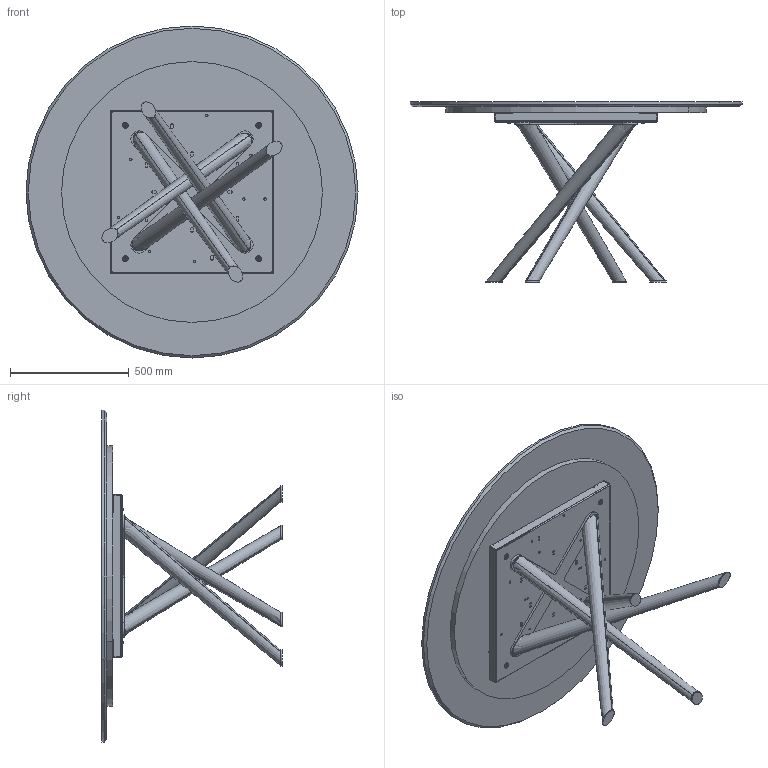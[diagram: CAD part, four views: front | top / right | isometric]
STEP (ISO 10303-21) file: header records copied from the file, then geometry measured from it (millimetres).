
FILE_DESCRIPTION (( 'STEP AP203' ), '1' );
FILE_NAME ('BA06M.STEP', '2024-08-08T06:36:45', ( '' ), ( '' ), 'SwSTEP 2.0', 'SolidWorks 2022', '' );
FILE_SCHEMA (( 'CONFIG_CONTROL_DESIGN' ));
Length unit declared in the file: millimetre
Products named in the file (14): TTAV0801-02-TELAIO UNIVERSALE TONDO-VASSOIO; BAB000000-00-BALY BASE GREZZA; TTAV0801-02-TELAIO UNIVERSALE TONDO; M0X-00- D. piani marmo_D.1400; M0XMXX-00-Piani Rotondi in marmo_1400; COLLO TELAIO UNIVERSALE TTAV0801 CON FERRAMENTA_MTG TOP LEGNO-MARMO-KING; TRU0000X-00-SOTTO PIANO D.XXXXmm_TRU00002 D.110cm ; M8xXXmm_M8x55mm; TTAV0801 TELAIO UNIVERSALE TONDO-PIASTRINA; BAB000000_01-00-Croce Superiore baly; Parte5^BAB000000-00-BALY BASE GREZZA; BA06M; BAB000000_02-00-basamento pali conificati; rondella M8_8X24
Assembly tree (22 placements, depth 4):
  BA06M
    M0XMXX-00-Piani Rotondi in marmo_1400
      TRU0000X-00-SOTTO PIANO D.XXXXmm_TRU00002 D.110cm 
      M0X-00- D. piani marmo_D.1400
    BAB000000-00-BALY BASE GREZZA
      BAB000000_01-00-Croce Superiore baly
      BAB000000_02-00-basamento pali conificati
      Parte5^BAB000000-00-BALY BASE GREZZA
    COLLO TELAIO UNIVERSALE TTAV0801 CON FERRAMENTA_MTG TOP LEGNO-MARMO-KING
      TTAV0801-02-TELAIO UNIVERSALE TONDO
        TTAV0801-02-TELAIO UNIVERSALE TONDO-VASSOIO
        TTAV0801 TELAIO UNIVERSALE TONDO-PIASTRINA  x4
      rondella M8_8X24  x4
      M8xXXmm_M8x55mm  x4
Bounding box: 1400 x 760 x 1400 mm (x, y, z)
Volume: 59001330 mm3; surface area: 7942603.5 mm2
Topology: 24 solids, 24 shells, 715 faces, 1831 edges, 1155 vertices
Faces by surface type: plane 312, cylinder 273, cone 74, torus 48, bspline 8
Entity records: 17463 total; most frequent: CARTESIAN_POINT 4200, DIRECTION 2457, ORIENTED_EDGE 2372, EDGE_CURVE 1186, AXIS2_PLACEMENT_3D 876, VERTEX_POINT 765, VECTOR 705, LINE 705
